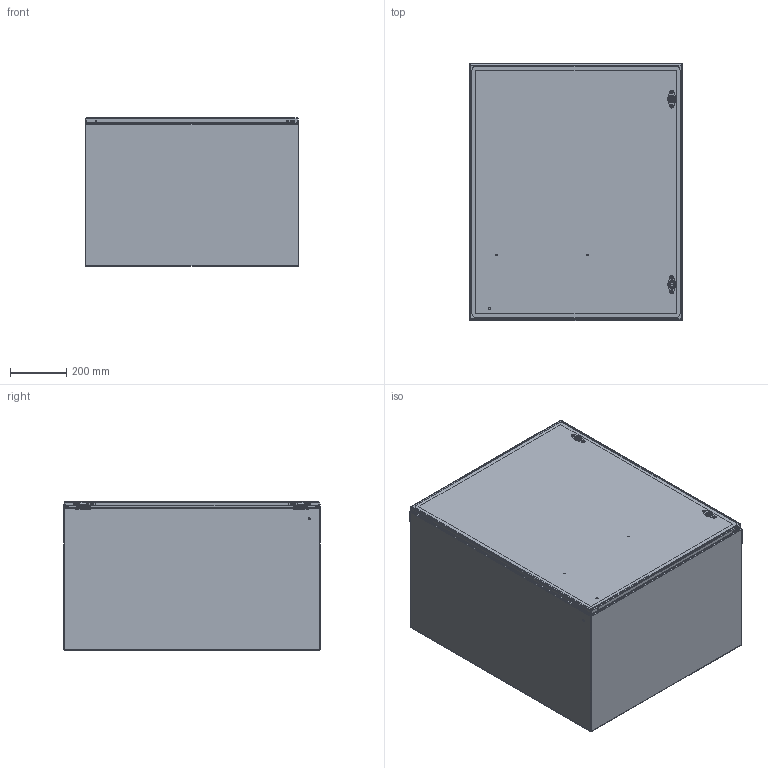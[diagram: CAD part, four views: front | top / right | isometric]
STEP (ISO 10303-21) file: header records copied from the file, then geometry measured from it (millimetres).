
FILE_DESCRIPTION (( 'STEP AP203' ), '1' );
FILE_NAME ('csd363020.STEP', '2012-06-11T18:53:18', ( 'User' ), ( 'Pentair Inc' ), 'SwSTEP 2.0', 'SolidWorks 2010', '' );
FILE_SCHEMA (( 'CONFIG_CONTROL_DESIGN' ));
Length unit declared in the file: inch
Products named in the file (28): 23271001_After Weld; 87937945_assy; 87937985_weldment; 87936144; 99401225; 87931362_87931362; 64101001; 64201001; 87541994_Installed Height; 87541995; 64202001; 64210001; 64203001; 87927840_87927840; 87932903; 64138001; 87938010; 87543027; 89076399; 89076193; 89056623; 87929507; 87929767; 87929769_Installed on Pin; csd363020; 89046363; 87756266_default; 64406015_default
Assembly tree (47 placements, depth 4):
  csd363020
    87543027  x2
    87937945_assy
      87932903  x4
      87938010
      64138001  x2
      87937985_weldment
        87931362_87931362  x6
        87936144
        99401225
      64101001  x2
        64203001
        87927840_87927840
        87541995
        87541994_Installed Height
        64202001
        64201001
        64210001
    89046363
      23271001_After Weld  x6
      87756266_default
      64406015_default  x2
      99401225
    87929507  x2
      87929767
      87929769_Installed on Pin
    89076399  x2
      89076193
      89056623
Bounding box: 762 x 915.17 x 528.7 mm (x, y, z)
Volume: 6158153.7 mm3; surface area: 6634500.5 mm2
Topology: 51 solids, 51 shells, 2375 faces, 5858 edges, 3544 vertices
Faces by surface type: plane 859, cylinder 724, bspline 504, cone 140, torus 140, sphere 8
Entity records: 45918 total; most frequent: CARTESIAN_POINT 15795, ORIENTED_EDGE 5814, DIRECTION 5153, EDGE_CURVE 2907, AXIS2_PLACEMENT_3D 1868, VERTEX_POINT 1798, LINE 1417, VECTOR 1417
